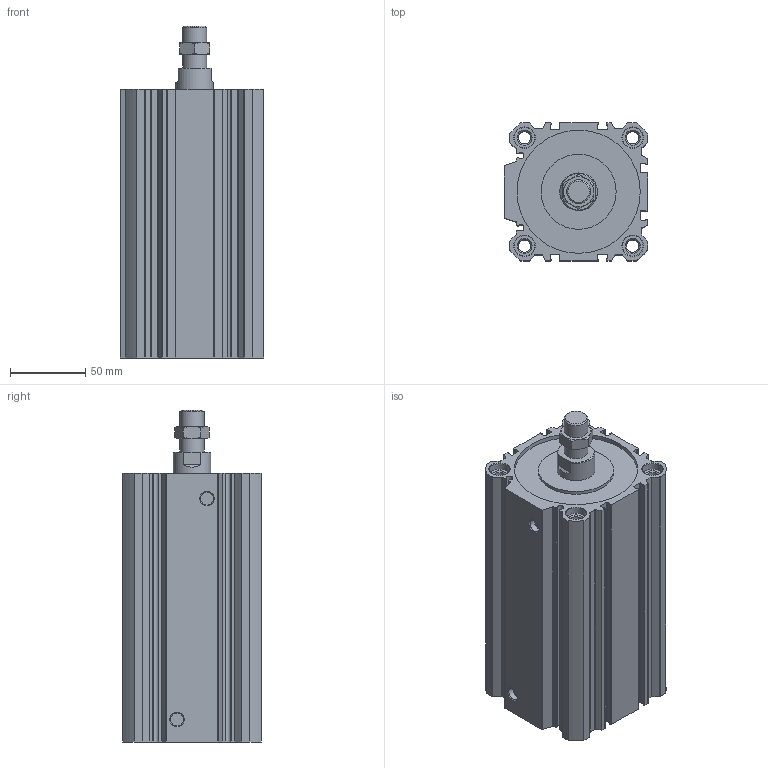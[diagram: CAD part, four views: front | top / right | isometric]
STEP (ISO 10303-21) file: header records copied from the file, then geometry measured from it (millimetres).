
FILE_DESCRIPTION( ( 'STEP AP214' ), '1' );
FILE_NAME( 'C:/Users/EMC02301/Desktop/RU0638 SF外牙 图纸/SF80X125-S-M.stp', '2026-07-24T10:00:53', ( 'License CC BY-ND 4.0' ), ( 'CADENAS' ), ' ', 'PARTsolutions', ' ' );
FILE_SCHEMA( ( 'AUTOMOTIVE_DESIGN { 1 0 10303 214 1 1 1 1 }' ) );
Length unit declared in the file: millimetre
Products named in the file (3): SF80X125-S-M()(04); _SF80X125()(_body) ; _SF80X125-M(rod-0)
Assembly tree (2 placements, depth 2):
  SF80X125-S-M()(04)
    _SF80X125()(_body) 
    _SF80X125-M(rod-0)
Bounding box: 95.5 x 92 x 221 mm (x, y, z)
Volume: 808162.7 mm3; surface area: 194971 mm2
Topology: 2 solids, 2 shells, 271 faces, 714 edges, 466 vertices
Faces by surface type: plane 123, cylinder 113, cone 35
Full cylindrical faces by diameter (mm): 8.376 x4, 8.566 x2, 13.7 x8, 16 x2, 25 x2, 50 x1, 80 x3, 82 x1
Entity records: 10486 total; most frequent: CARTESIAN_POINT 1550, DIRECTION 1450, ORIENTED_EDGE 1332, EDGE_CURVE 666, AXIS2_PLACEMENT_3D 538, VERTEX_POINT 462, LINE 374, VECTOR 374
